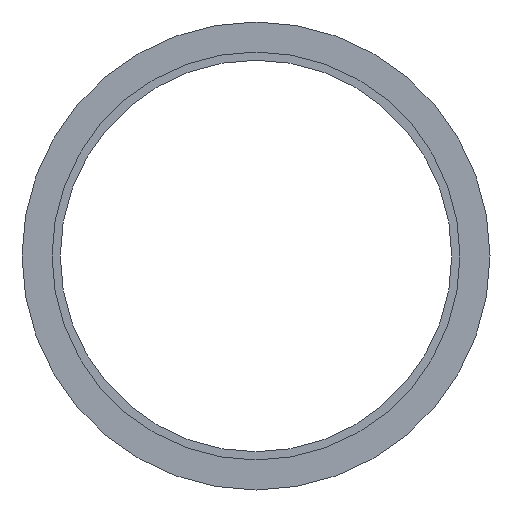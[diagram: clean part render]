
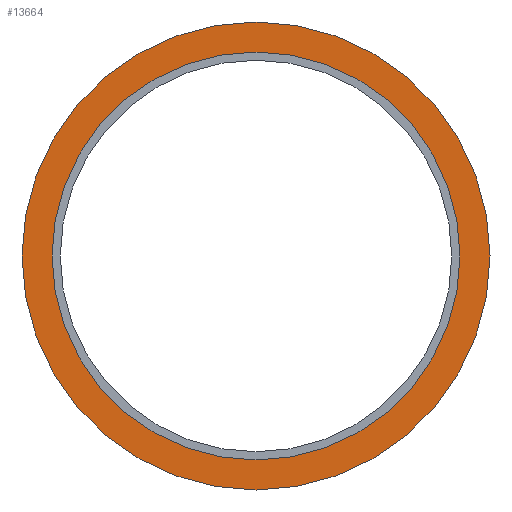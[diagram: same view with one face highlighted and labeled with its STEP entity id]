
A CAD part, left-side view. The second image highlights one B-rep face of the part: STEP entity #13664.
In plain terms, the highlighted planar face has unit normal (-1, 0, 0).
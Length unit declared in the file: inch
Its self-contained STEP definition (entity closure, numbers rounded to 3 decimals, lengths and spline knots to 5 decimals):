
#13622=CARTESIAN_POINT('',(0.125,1.495,0.0));
#13623=VERTEX_POINT('',#13622);
#13624=CARTESIAN_POINT('',(0.125,0.0,0.0));
#13625=DIRECTION('',(1.0,0.0,0.0));
#13626=DIRECTION('',(0.0,1.0,0.0));
#13627=AXIS2_PLACEMENT_3D('',#13624,#13625,#13626);
#13628=CIRCLE('',#13627,1.495);
#13629=EDGE_CURVE('',#13623,#13623,#13628,.T.);
#13645=CARTESIAN_POINT('',(0.125,1.605,0.0));
#13646=DIRECTION('',(-1.0,0.0,0.0));
#13647=DIRECTION('',(0.0,0.0,1.0));
#13648=AXIS2_PLACEMENT_3D('',#13645,#13646,#13647);
#13649=PLANE('',#13648);
#13650=CARTESIAN_POINT('',(0.125,1.715,0.0));
#13651=VERTEX_POINT('',#13650);
#13652=CARTESIAN_POINT('',(0.125,0.0,0.0));
#13653=DIRECTION('',(1.0,0.0,0.0));
#13654=DIRECTION('',(0.0,1.0,0.0));
#13655=AXIS2_PLACEMENT_3D('',#13652,#13653,#13654);
#13656=CIRCLE('',#13655,1.715);
#13657=EDGE_CURVE('',#13651,#13651,#13656,.T.);
#13658=ORIENTED_EDGE('',*,*,#13657,.F.);
#13659=EDGE_LOOP('',(#13658));
#13660=FACE_OUTER_BOUND('',#13659,.T.);
#13661=ORIENTED_EDGE('',*,*,#13629,.T.);
#13662=EDGE_LOOP('',(#13661));
#13663=FACE_BOUND('',#13662,.T.);
#13664=ADVANCED_FACE('',(#13660,#13663),#13649,.T.);
